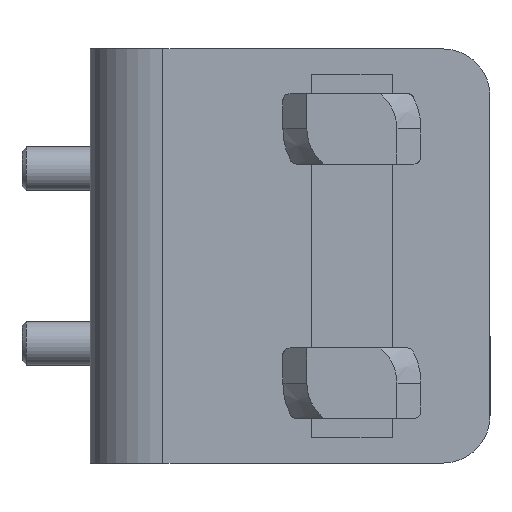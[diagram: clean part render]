
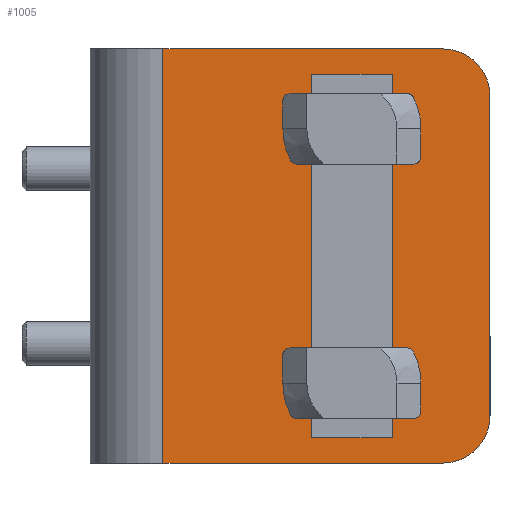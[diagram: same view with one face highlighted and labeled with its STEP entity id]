
A CAD part, left-side view. The second image highlights one B-rep face of the part: STEP entity #1005.
In plain terms, the highlighted planar face has unit normal (-1, 0, 0).
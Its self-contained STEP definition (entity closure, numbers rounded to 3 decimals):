
#10 = ORIENTED_EDGE ( 'NONE', *, *, #321, .T. ) ;
#35 = EDGE_CURVE ( 'NONE', #1849, #6441, #6588, .T. ) ;
#162 = DIRECTION ( 'NONE',  ( -1., 0., 0. ) ) ;
#173 = CARTESIAN_POINT ( 'NONE',  ( -13.8, -41.55, 25. ) ) ;
#308 = EDGE_CURVE ( 'NONE', #3172, #2897, #2620, .T. ) ;
#316 = ORIENTED_EDGE ( 'NONE', *, *, #4980, .F. ) ;
#321 = EDGE_CURVE ( 'NONE', #3593, #2634, #421, .T. ) ;
#371 = CARTESIAN_POINT ( 'NONE',  ( -13.8, -41.55, -25. ) ) ;
#421 = CIRCLE ( 'NONE', #4692, 6.5 ) ;
#481 = ORIENTED_EDGE ( 'NONE', *, *, #1153, .F. ) ;
#556 = DIRECTION ( 'NONE',  ( 0., 1., 0. ) ) ;
#653 = DIRECTION ( 'NONE',  ( -1., 0., 0. ) ) ;
#664 = LINE ( 'NONE', #4305, #3578 ) ;
#1005 = ADVANCED_FACE ( 'NONE', ( #4642, #2689 ), #3677, .T. ) ;
#1098 = EDGE_LOOP ( 'NONE', ( #481, #1410, #1453, #5761 ) ) ;
#1141 = CARTESIAN_POINT ( 'NONE',  ( -13.8, -48.5, 22. ) ) ;
#1153 = EDGE_CURVE ( 'NONE', #2387, #1849, #6428, .T. ) ;
#1188 = CARTESIAN_POINT ( 'NONE',  ( -13.8, -10., 28.5 ) ) ;
#1410 = ORIENTED_EDGE ( 'NONE', *, *, #4485, .F. ) ;
#1453 = ORIENTED_EDGE ( 'NONE', *, *, #3233, .F. ) ;
#1595 = DIRECTION ( 'NONE',  ( 0., 1., 0. ) ) ;
#1651 = CARTESIAN_POINT ( 'NONE',  ( -13.8, -48.5, -22. ) ) ;
#1666 = VECTOR ( 'NONE', #3813, 1000. ) ;
#1694 = VECTOR ( 'NONE', #5200, 1000. ) ;
#1734 = LINE ( 'NONE', #2241, #2469 ) ;
#1762 = ORIENTED_EDGE ( 'NONE', *, *, #308, .T. ) ;
#1849 = VERTEX_POINT ( 'NONE', #173 ) ;
#2187 = DIRECTION ( 'NONE',  ( 0., 1., 0. ) ) ;
#2216 = VECTOR ( 'NONE', #6445, 1000. ) ;
#2228 = CARTESIAN_POINT ( 'NONE',  ( -13.8, -41.55, -25. ) ) ;
#2241 = CARTESIAN_POINT ( 'NONE',  ( -13.8, -30.45, -25. ) ) ;
#2301 = VERTEX_POINT ( 'NONE', #3877 ) ;
#2387 = VERTEX_POINT ( 'NONE', #371 ) ;
#2469 = VECTOR ( 'NONE', #5395, 1000. ) ;
#2620 = LINE ( 'NONE', #3150, #1694 ) ;
#2634 = VERTEX_POINT ( 'NONE', #2649 ) ;
#2637 = ORIENTED_EDGE ( 'NONE', *, *, #5954, .F. ) ;
#2649 = CARTESIAN_POINT ( 'NONE',  ( -13.8, -48.5, 28.5 ) ) ;
#2673 = EDGE_CURVE ( 'NONE', #5025, #4322, #4086, .T. ) ;
#2689 = FACE_BOUND ( 'NONE', #1098, .T. ) ;
#2690 = CARTESIAN_POINT ( 'NONE',  ( -13.8, -55., 28.5 ) ) ;
#2701 = CARTESIAN_POINT ( 'NONE',  ( -13.8, -55., -22. ) ) ;
#2723 = CARTESIAN_POINT ( 'NONE',  ( -13.8, -55., 22. ) ) ;
#2897 = VERTEX_POINT ( 'NONE', #5796 ) ;
#3084 = VECTOR ( 'NONE', #6558, 1000. ) ;
#3150 = CARTESIAN_POINT ( 'NONE',  ( -13.8, -10., 0. ) ) ;
#3172 = VERTEX_POINT ( 'NONE', #1188 ) ;
#3233 = EDGE_CURVE ( 'NONE', #6441, #2301, #664, .T. ) ;
#3419 = LINE ( 'NONE', #4397, #2216 ) ;
#3578 = VECTOR ( 'NONE', #4238, 1000. ) ;
#3593 = VERTEX_POINT ( 'NONE', #2723 ) ;
#3677 = PLANE ( 'NONE',  #5131 ) ;
#3770 = DIRECTION ( 'NONE',  ( 0., -1., 0. ) ) ;
#3813 = DIRECTION ( 'NONE',  ( 0., 1., 0. ) ) ;
#3877 = CARTESIAN_POINT ( 'NONE',  ( -13.8, -30.45, -25. ) ) ;
#4086 = CIRCLE ( 'NONE', #6446, 6.5 ) ;
#4238 = DIRECTION ( 'NONE',  ( 0., 0., -1. ) ) ;
#4305 = CARTESIAN_POINT ( 'NONE',  ( -13.8, -30.45, -25. ) ) ;
#4322 = VERTEX_POINT ( 'NONE', #2701 ) ;
#4397 = CARTESIAN_POINT ( 'NONE',  ( -13.8, -55., -28.5 ) ) ;
#4485 = EDGE_CURVE ( 'NONE', #2301, #2387, #1734, .T. ) ;
#4498 = EDGE_LOOP ( 'NONE', ( #6076, #2637, #10, #316, #1762, #5476 ) ) ;
#4505 = VECTOR ( 'NONE', #3770, 1000. ) ;
#4642 = FACE_OUTER_BOUND ( 'NONE', #4498, .T. ) ;
#4692 = AXIS2_PLACEMENT_3D ( 'NONE', #1141, #653, #2187 ) ;
#4707 = LINE ( 'NONE', #2690, #4505 ) ;
#4960 = CARTESIAN_POINT ( 'NONE',  ( -13.8, -5., -28.5 ) ) ;
#4980 = EDGE_CURVE ( 'NONE', #3172, #2634, #4707, .T. ) ;
#5025 = VERTEX_POINT ( 'NONE', #5845 ) ;
#5131 = AXIS2_PLACEMENT_3D ( 'NONE', #6185, #162, #1595 ) ;
#5143 = DIRECTION ( 'NONE',  ( -1., 0., 0. ) ) ;
#5200 = DIRECTION ( 'NONE',  ( 0., 0., -1. ) ) ;
#5365 = LINE ( 'NONE', #4960, #1666 ) ;
#5395 = DIRECTION ( 'NONE',  ( 0., -1., 0. ) ) ;
#5476 = ORIENTED_EDGE ( 'NONE', *, *, #6328, .F. ) ;
#5509 = CARTESIAN_POINT ( 'NONE',  ( -13.8, -30.45, 25. ) ) ;
#5761 = ORIENTED_EDGE ( 'NONE', *, *, #35, .F. ) ;
#5796 = CARTESIAN_POINT ( 'NONE',  ( -13.8, -10., -28.5 ) ) ;
#5845 = CARTESIAN_POINT ( 'NONE',  ( -13.8, -48.5, -28.5 ) ) ;
#5876 = VECTOR ( 'NONE', #6388, 1000. ) ;
#5954 = EDGE_CURVE ( 'NONE', #3593, #4322, #3419, .T. ) ;
#6076 = ORIENTED_EDGE ( 'NONE', *, *, #2673, .T. ) ;
#6185 = CARTESIAN_POINT ( 'NONE',  ( -13.8, 0., 0. ) ) ;
#6328 = EDGE_CURVE ( 'NONE', #5025, #2897, #5365, .T. ) ;
#6388 = DIRECTION ( 'NONE',  ( 0., 0., 1. ) ) ;
#6428 = LINE ( 'NONE', #2228, #5876 ) ;
#6441 = VERTEX_POINT ( 'NONE', #6569 ) ;
#6445 = DIRECTION ( 'NONE',  ( 0., 0., -1. ) ) ;
#6446 = AXIS2_PLACEMENT_3D ( 'NONE', #1651, #5143, #556 ) ;
#6558 = DIRECTION ( 'NONE',  ( 0., 1., 0. ) ) ;
#6569 = CARTESIAN_POINT ( 'NONE',  ( -13.8, -30.45, 25. ) ) ;
#6588 = LINE ( 'NONE', #5509, #3084 ) ;
